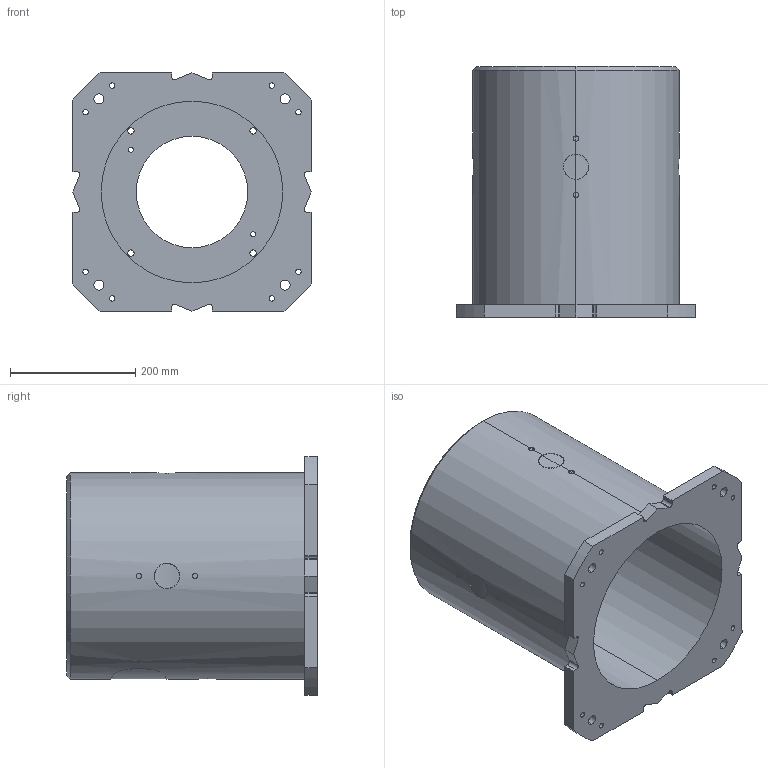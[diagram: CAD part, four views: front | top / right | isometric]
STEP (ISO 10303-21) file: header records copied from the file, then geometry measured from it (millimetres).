
FILE_DESCRIPTION (( 'STEP AP214' ), '1' );
FILE_NAME ('E-400.STEP', '2025-12-05T12:40:57', ( '' ), ( '' ), 'SwSTEP 2.0', 'SolidWorks 2022', '' );
FILE_SCHEMA (( 'AUTOMOTIVE_DESIGN' ));
Length unit declared in the file: millimetre
Products named in the file (1): E-400
Bounding box: 380 x 400 x 380 mm (x, y, z)
Volume: 9538310.9 mm3; surface area: 1016529.1 mm2
Topology: 1 solids, 1 shells, 146 faces, 400 edges, 266 vertices
Faces by surface type: cylinder 100, plane 28, bspline 16, cone 2
Entity records: 9751 total; most frequent: CARTESIAN_POINT 5547, ORIENTED_EDGE 800, DIRECTION 680, EDGE_CURVE 400, VERTEX_POINT 266, AXIS2_PLACEMENT_3D 257, EDGE_LOOP 194, VECTOR 166
